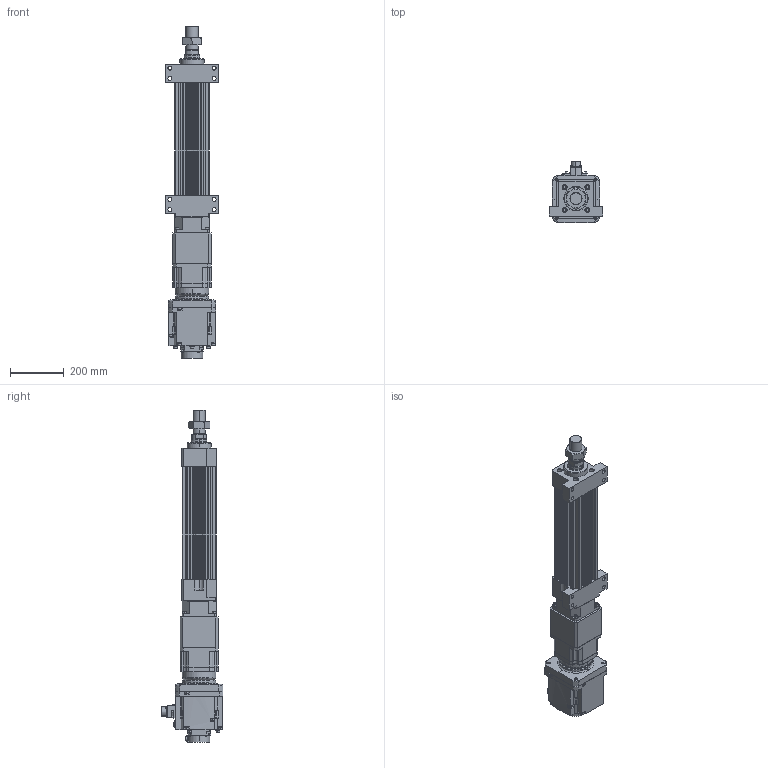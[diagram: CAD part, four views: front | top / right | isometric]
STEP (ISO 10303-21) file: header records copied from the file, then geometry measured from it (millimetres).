
FILE_DESCRIPTION (( 'STEP AP203' ), '1' );
FILE_NAME ('HES130NS(FS)(HS)-S200-W020G00-M-FFB.STEP', '2026-06-10T06:14:50', ( 'tms' ), ( '' ), 'SwSTEP 2.0', 'SolidWorks 2013', '' );
FILE_SCHEMA (( 'CONFIG_CONTROL_DESIGN' ));
Length unit declared in the file: millimetre
Products named in the file (9): HG-SR202B; HES130-S-G142; AB1421; AB1422; HES130-M-ROD-200; AB1423; HES130-FFB-200; M45X1.5P; HES130NS(FS)(HS)-S200-W020G00-M-FFB
Assembly tree (8 placements, depth 2):
  HES130NS(FS)(HS)-S200-W020G00-M-FFB
    HES130-FFB-200
    HES130-M-ROD-200
    M45X1.5P
    HES130-S-G142
    AB1421
    AB1422
    AB1423
    HG-SR202B
Bounding box: 200 x 228.85 x 1235 mm (x, y, z)
Volume: 12070053.2 mm3; surface area: 1394918.7 mm2
Topology: 5 solids, 19 shells, 1547 faces, 4010 edges, 2610 vertices
Faces by surface type: cylinder 694, plane 619, cone 152, bspline 76, torus 6
Entity records: 56386 total; most frequent: CARTESIAN_POINT 16969, DIRECTION 8246, ORIENTED_EDGE 7946, EDGE_CURVE 3995, AXIS2_PLACEMENT_3D 3104, VERTEX_POINT 2610, LINE 2038, VECTOR 2038
